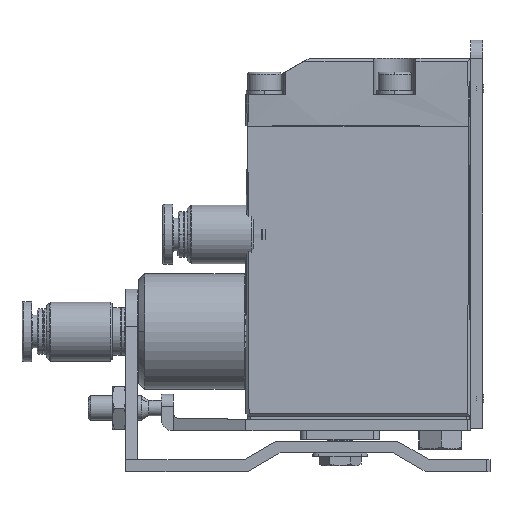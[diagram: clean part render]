
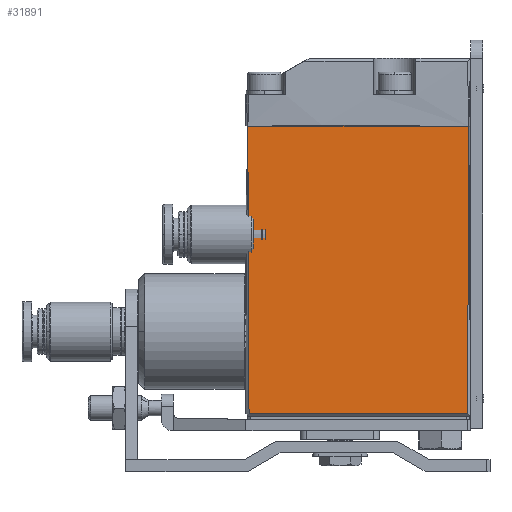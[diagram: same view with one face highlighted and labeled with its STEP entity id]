
A CAD part, left-side view. The second image highlights one B-rep face of the part: STEP entity #31891.
In plain terms, the highlighted planar face has unit normal (-1, 0, 0).
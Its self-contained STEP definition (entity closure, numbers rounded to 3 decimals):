
#922 = EDGE_CURVE ( 'NONE', #40178, #4586, #35388, .T. ) ;
#2924 = EDGE_CURVE ( 'NONE', #10324, #38683, #40503, .T. ) ;
#3310 = CARTESIAN_POINT ( 'NONE',  ( 0., 36.5, 24. ) ) ;
#3772 = CARTESIAN_POINT ( 'NONE',  ( 0.255, 36.7, 47.8 ) ) ;
#4258 = DIRECTION ( 'NONE',  ( 0., 0., -1. ) ) ;
#4574 = DIRECTION ( 'NONE',  ( -1., 0., 0. ) ) ;
#4586 = VERTEX_POINT ( 'NONE', #25597 ) ;
#4663 = CARTESIAN_POINT ( 'NONE',  ( 0., 18.5, 47.5 ) ) ;
#5307 = VECTOR ( 'NONE', #17009, 1000. ) ;
#8324 = DIRECTION ( 'NONE',  ( 0., 1., 0. ) ) ;
#9671 = FACE_OUTER_BOUND ( 'NONE', #23885, .T. ) ;
#10324 = VERTEX_POINT ( 'NONE', #29639 ) ;
#11309 = CARTESIAN_POINT ( 'NONE',  ( 0., 0.5, 24. ) ) ;
#11517 = AXIS2_PLACEMENT_3D ( 'NONE', #26583, #4574, #30251 ) ;
#11752 = PLANE ( 'NONE',  #11517 ) ;
#13022 = DIRECTION ( 'NONE',  ( 0., 0., 1. ) ) ;
#14209 = ORIENTED_EDGE ( 'NONE', *, *, #26999, .T. ) ;
#17009 = DIRECTION ( 'NONE',  ( 0., 1., 0. ) ) ;
#18821 = ORIENTED_EDGE ( 'NONE', *, *, #922, .T. ) ;
#23885 = EDGE_LOOP ( 'NONE', ( #41413, #14209, #18821, #41716 ) ) ;
#25597 = CARTESIAN_POINT ( 'NONE',  ( 0., 36.5, 0.5 ) ) ;
#26583 = CARTESIAN_POINT ( 'NONE',  ( 0., -3.1, -4.2 ) ) ;
#26999 = EDGE_CURVE ( 'NONE', #38683, #40178, #30359, .T. ) ;
#28587 = CARTESIAN_POINT ( 'NONE',  ( 0., 18.5, 0.5 ) ) ;
#29639 = CARTESIAN_POINT ( 'NONE',  ( 0., 0.5, 0.5 ) ) ;
#30244 = EDGE_CURVE ( 'NONE', #10324, #4586, #33495, .T. ) ;
#30251 = DIRECTION ( 'NONE',  ( 0., 0., 1. ) ) ;
#30271 = CARTESIAN_POINT ( 'NONE',  ( 0.255, 0.3, 47.8 ) ) ;
#30359 = LINE ( 'NONE', #4663, #39005 ) ;
#31891 = ADVANCED_FACE ( 'NONE', ( #9671 ), #11752, .T. ) ;
#33495 = LINE ( 'NONE', #28587, #5307 ) ;
#35388 = LINE ( 'NONE', #3310, #44034 ) ;
#38683 = VERTEX_POINT ( 'NONE', #30271 ) ;
#39005 = VECTOR ( 'NONE', #8324, 1000. ) ;
#39320 = VECTOR ( 'NONE', #13022, 1000. ) ;
#40178 = VERTEX_POINT ( 'NONE', #3772 ) ;
#40503 = LINE ( 'NONE', #11309, #39320 ) ;
#41413 = ORIENTED_EDGE ( 'NONE', *, *, #2924, .T. ) ;
#41716 = ORIENTED_EDGE ( 'NONE', *, *, #30244, .F. ) ;
#44034 = VECTOR ( 'NONE', #4258, 1000. ) ;
